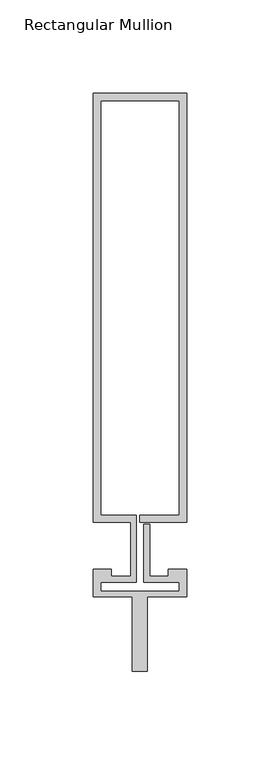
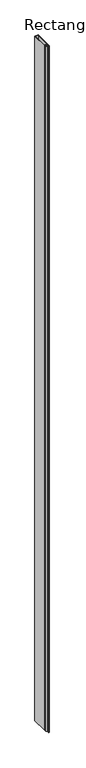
"""IFC4 building model written with IfcOpenShell, lengths in millimetres: member geometry, Rectangular Mullion : Reynaers_CW-50_Mullion-Transom_Vertical_230.5mm_Facecap-06B."""

from ifc_helpers import new_model, si_unit, frame, origin, place, context, project, spatial, polyline, outline, extrude, source, transform, mapped, element, save


def rectangular_mullion_feab08c6(model_context):
    return source(origin(), model_context, "Body", "SweptSolid", [
        extrude(outline(polyline([(-24.8004059, 243.0), (25.1995941, 243.0), (25.1995941, 12.5), (0.0, 12.5), (0.0, 16.5), (21.1995941, 16.5), (21.1995941, 239.0), (-20.8004059, 239.0), (-20.8004059, 16.5), (-1.9004059, 16.5), (-1.9004059, -19.5), (-20.994845, -19.5), (-20.994845, -24.4191338), (21.1995941, -24.4191338), (21.1995941, -19.5), (2.2995941, -19.5), (2.2995941, 11.5), (5.2995941, 11.5), (5.2995941, -16.5), (15.2996495, -16.5), (15.2996495, -12.5), (25.1995941, -12.5), (25.1995941, -27.5), (4.004855, -27.5), (4.004855, -67.5), (-3.995145, -67.5), (-3.995145, -27.5), (-24.994845, -27.5), (-24.994845, -12.5), (-15.2996495, -12.5), (-15.2996495, -16.5), (-4.9004059, -16.5), (-4.9004059, 12.5), (-24.8004059, 12.5), (-24.8004059, 243.0)])), frame((0.0, 0.0, -10400.0), z_axis=(0.0, 0.0, 1.0), x_axis=(1.0, 0.0, 0.0)), (0.0, 0.0, 1.0), 10400.0),
    ])


if __name__ == "__main__":
    model = new_model("IFC4")
    model_context = context("Model", 3, world=origin())
    ifc_project = project(units=[si_unit("LENGTHUNIT", "METRE", prefix="MILLI")], contexts=[model_context])
    site = spatial("IfcSite", under=ifc_project)
    building = spatial("IfcBuilding", under=site)
    placement = place(None, origin())
    rectangular_mullion_shape = rectangular_mullion_feab08c6(model_context)
    element("IfcMember", 1, ObjectType="Rectangular Mullion : Reynaers_CW-50_Mullion-Transom_Vertical_230.5mm_Facecap-06B", at=placement, inside=building, context=model_context, shape_type="MappedRepresentation", body=[
        mapped(rectangular_mullion_shape, transform((0.0, 0.0, 0.0), x_axis=(1.0, 0.0, 0.0), y_axis=(0.0, 1.0, 0.0), z_axis=(0.0, 0.0, 1.0))),
    ])
    save(model, "model.ifc")
